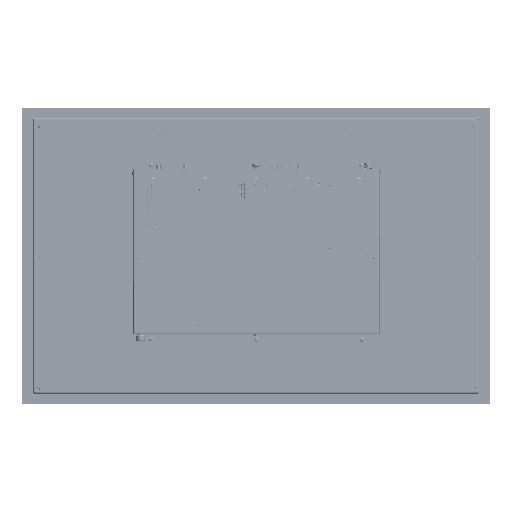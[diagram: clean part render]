
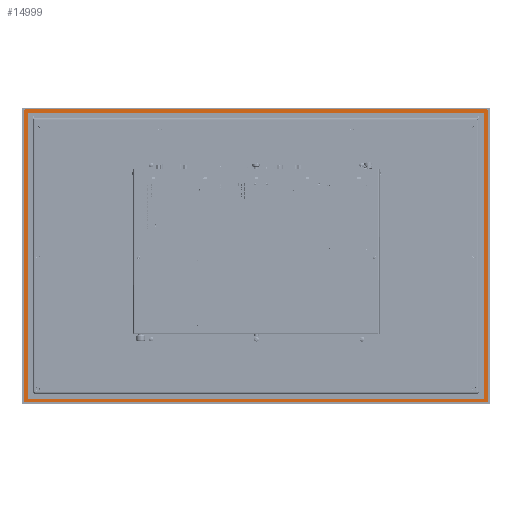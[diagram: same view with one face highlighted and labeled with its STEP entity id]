
A CAD part, front view. The second image highlights one B-rep face of the part: STEP entity #14999.
In plain terms, the highlighted planar face has unit normal (0, -1, 0).
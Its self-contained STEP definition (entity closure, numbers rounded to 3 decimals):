
#1661 = CARTESIAN_POINT ( 'NONE',  ( 286.25, 0., -182.25 ) ) ;
#6949 = LINE ( 'NONE', #718922, #711248 ) ;
#7481 = CARTESIAN_POINT ( 'NONE',  ( 286.25, 0., -180.5 ) ) ;
#10936 = AXIS2_PLACEMENT_3D ( 'NONE', #749580, #271257, #192895 ) ;
#11781 = EDGE_CURVE ( 'NONE', #850380, #648390, #453104, .T. ) ;
#14977 = VECTOR ( 'NONE', #573810, 1000. ) ;
#14999 = ADVANCED_FACE ( 'NONE', ( #380725, #261652 ), #216676, .F. ) ;
#17413 = EDGE_CURVE ( 'NONE', #131591, #850380, #542525, .T. ) ;
#20110 = CARTESIAN_POINT ( 'NONE',  ( 282.25, 0., 176.5 ) ) ;
#21724 = CARTESIAN_POINT ( 'NONE',  ( 283.5, 0., -176.5 ) ) ;
#23475 = VERTEX_POINT ( 'NONE', #207932 ) ;
#28603 = CIRCLE ( 'NONE', #658890, 1.75 ) ;
#36739 = LINE ( 'NONE', #785697, #14977 ) ;
#42325 = VERTEX_POINT ( 'NONE', #216575 ) ;
#45428 = ORIENTED_EDGE ( 'NONE', *, *, #868485, .F. ) ;
#45938 = CARTESIAN_POINT ( 'NONE',  ( 283.5, 0., 176.5 ) ) ;
#67307 = EDGE_CURVE ( 'NONE', #811707, #552546, #169708, .T. ) ;
#86664 = DIRECTION ( 'NONE',  ( 1., 0., 0. ) ) ;
#88775 = ORIENTED_EDGE ( 'NONE', *, *, #545434, .F. ) ;
#103154 = DIRECTION ( 'NONE',  ( 0., -1., 0. ) ) ;
#109710 = CARTESIAN_POINT ( 'NONE',  ( -282.25, 0., -176.5 ) ) ;
#116695 = AXIS2_PLACEMENT_3D ( 'NONE', #495167, #501124, #86664 ) ;
#127116 = EDGE_CURVE ( 'NONE', #646331, #23475, #130507, .T. ) ;
#130507 = LINE ( 'NONE', #851236, #639250 ) ;
#131591 = VERTEX_POINT ( 'NONE', #21724 ) ;
#134162 = CARTESIAN_POINT ( 'NONE',  ( -283.5, 0., 176.5 ) ) ;
#136411 = ORIENTED_EDGE ( 'NONE', *, *, #127116, .F. ) ;
#143947 = CARTESIAN_POINT ( 'NONE',  ( -282.25, 0., -177.75 ) ) ;
#154887 = CARTESIAN_POINT ( 'NONE',  ( 282.25, 0., 177.75 ) ) ;
#162033 = DIRECTION ( 'NONE',  ( 1., 0., 0. ) ) ;
#167563 = ORIENTED_EDGE ( 'NONE', *, *, #394637, .F. ) ;
#169708 = LINE ( 'NONE', #421321, #754132 ) ;
#172824 = AXIS2_PLACEMENT_3D ( 'NONE', #198001, #818677, #751836 ) ;
#182872 = EDGE_CURVE ( 'NONE', #222070, #42325, #488872, .T. ) ;
#185828 = DIRECTION ( 'NONE',  ( 0., -1., 0. ) ) ;
#192895 = DIRECTION ( 'NONE',  ( 0., 0., -1. ) ) ;
#198001 = CARTESIAN_POINT ( 'NONE',  ( -286.25, 0., 180.5 ) ) ;
#207102 = DIRECTION ( 'NONE',  ( 0., 1., 0. ) ) ;
#207932 = CARTESIAN_POINT ( 'NONE',  ( 286.25, 0., 182.25 ) ) ;
#216575 = CARTESIAN_POINT ( 'NONE',  ( -283.5, 0., -176.5 ) ) ;
#216676 = PLANE ( 'NONE',  #116695 ) ;
#217586 = ORIENTED_EDGE ( 'NONE', *, *, #885132, .F. ) ;
#222070 = VERTEX_POINT ( 'NONE', #134162 ) ;
#222883 = EDGE_LOOP ( 'NONE', ( #644734, #449027, #554043, #217586, #543784, #412034, #167563, #892956 ) ) ;
#226115 = CIRCLE ( 'NONE', #172824, 1.75 ) ;
#233957 = VECTOR ( 'NONE', #425259, 1000. ) ;
#246145 = EDGE_CURVE ( 'NONE', #371913, #222070, #811891, .T. ) ;
#257663 = DIRECTION ( 'NONE',  ( 0., -1., 0. ) ) ;
#261652 = FACE_OUTER_BOUND ( 'NONE', #420437, .T. ) ;
#265935 = CARTESIAN_POINT ( 'NONE',  ( -283.5, 0., 176.5 ) ) ;
#271257 = DIRECTION ( 'NONE',  ( 0., 1., 0. ) ) ;
#271359 = VERTEX_POINT ( 'NONE', #632183 ) ;
#279733 = CARTESIAN_POINT ( 'NONE',  ( 282.25, 0., 177.75 ) ) ;
#304156 = DIRECTION ( 'NONE',  ( 0., 0., -1. ) ) ;
#319719 = CIRCLE ( 'NONE', #623508, 1.75 ) ;
#336801 = DIRECTION ( 'NONE',  ( 0., 1., 0. ) ) ;
#336964 = ORIENTED_EDGE ( 'NONE', *, *, #680335, .F. ) ;
#371913 = VERTEX_POINT ( 'NONE', #869673 ) ;
#380654 = CARTESIAN_POINT ( 'NONE',  ( 282.25, 0., -177.75 ) ) ;
#380725 = FACE_BOUND ( 'NONE', #222883, .T. ) ;
#391658 = VECTOR ( 'NONE', #750103, 1000. ) ;
#394637 = EDGE_CURVE ( 'NONE', #685913, #131591, #552471, .T. ) ;
#396891 = VECTOR ( 'NONE', #706283, 1000. ) ;
#397528 = VERTEX_POINT ( 'NONE', #711763 ) ;
#400901 = ORIENTED_EDGE ( 'NONE', *, *, #434622, .F. ) ;
#412034 = ORIENTED_EDGE ( 'NONE', *, *, #17413, .F. ) ;
#420437 = EDGE_LOOP ( 'NONE', ( #481221, #400901, #336964, #45428, #136411, #516915, #806340, #88775 ) ) ;
#421321 = CARTESIAN_POINT ( 'NONE',  ( 286.25, 0., -182.25 ) ) ;
#425259 = DIRECTION ( 'NONE',  ( 1., 0., 0. ) ) ;
#434622 = EDGE_CURVE ( 'NONE', #836767, #811707, #28603, .T. ) ;
#435851 = CARTESIAN_POINT ( 'NONE',  ( 288., 0., -180.5 ) ) ;
#439141 = CARTESIAN_POINT ( 'NONE',  ( -282.25, 0., -177.75 ) ) ;
#445257 = AXIS2_PLACEMENT_3D ( 'NONE', #20110, #570863, #162033 ) ;
#449027 = ORIENTED_EDGE ( 'NONE', *, *, #182872, .F. ) ;
#453104 = CIRCLE ( 'NONE', #445257, 1.25 ) ;
#472076 = EDGE_CURVE ( 'NONE', #669169, #271359, #36739, .T. ) ;
#475648 = CIRCLE ( 'NONE', #10936, 1.75 ) ;
#481221 = ORIENTED_EDGE ( 'NONE', *, *, #67307, .F. ) ;
#488872 = LINE ( 'NONE', #265935, #391658 ) ;
#495167 = CARTESIAN_POINT ( 'NONE',  ( 0., 0., 0. ) ) ;
#496901 = DIRECTION ( 'NONE',  ( 1., 0., 0. ) ) ;
#499400 = CARTESIAN_POINT ( 'NONE',  ( -288., 0., -180.5 ) ) ;
#501124 = DIRECTION ( 'NONE',  ( 0., 1., 0. ) ) ;
#516915 = ORIENTED_EDGE ( 'NONE', *, *, #897594, .F. ) ;
#542525 = LINE ( 'NONE', #562915, #737713 ) ;
#543784 = ORIENTED_EDGE ( 'NONE', *, *, #11781, .F. ) ;
#545434 = EDGE_CURVE ( 'NONE', #552546, #669169, #475648, .T. ) ;
#552471 = CIRCLE ( 'NONE', #674377, 1.25 ) ;
#552546 = VERTEX_POINT ( 'NONE', #777517 ) ;
#554043 = ORIENTED_EDGE ( 'NONE', *, *, #246145, .F. ) ;
#562915 = CARTESIAN_POINT ( 'NONE',  ( 283.5, 0., -176.5 ) ) ;
#570863 = DIRECTION ( 'NONE',  ( 0., -1., 0. ) ) ;
#573810 = DIRECTION ( 'NONE',  ( 0., 0., 1. ) ) ;
#575211 = CIRCLE ( 'NONE', #847604, 1.25 ) ;
#597864 = CARTESIAN_POINT ( 'NONE',  ( -286.25, 0., 182.25 ) ) ;
#606496 = CARTESIAN_POINT ( 'NONE',  ( -282.25, 0., 176.5 ) ) ;
#623508 = AXIS2_PLACEMENT_3D ( 'NONE', #890791, #336801, #821325 ) ;
#632183 = CARTESIAN_POINT ( 'NONE',  ( -288., 0., 180.5 ) ) ;
#639250 = VECTOR ( 'NONE', #496901, 1000. ) ;
#644734 = ORIENTED_EDGE ( 'NONE', *, *, #875235, .F. ) ;
#646331 = VERTEX_POINT ( 'NONE', #597864 ) ;
#648390 = VERTEX_POINT ( 'NONE', #154887 ) ;
#658890 = AXIS2_PLACEMENT_3D ( 'NONE', #7481, #207102, #897411 ) ;
#661882 = DIRECTION ( 'NONE',  ( -1., 0., 0. ) ) ;
#663403 = DIRECTION ( 'NONE',  ( -1., 0., 0. ) ) ;
#669169 = VERTEX_POINT ( 'NONE', #499400 ) ;
#674377 = AXIS2_PLACEMENT_3D ( 'NONE', #796131, #103154, #865741 ) ;
#678310 = LINE ( 'NONE', #279733, #396891 ) ;
#680335 = EDGE_CURVE ( 'NONE', #397528, #836767, #6949, .T. ) ;
#685913 = VERTEX_POINT ( 'NONE', #380654 ) ;
#702097 = DIRECTION ( 'NONE',  ( 0., 0., 1. ) ) ;
#706283 = DIRECTION ( 'NONE',  ( -1., 0., 0. ) ) ;
#711248 = VECTOR ( 'NONE', #304156, 1000. ) ;
#711763 = CARTESIAN_POINT ( 'NONE',  ( 288., 0., 180.5 ) ) ;
#718922 = CARTESIAN_POINT ( 'NONE',  ( 288., 0., 180.5 ) ) ;
#723990 = AXIS2_PLACEMENT_3D ( 'NONE', #606496, #185828, #879001 ) ;
#737713 = VECTOR ( 'NONE', #702097, 1000. ) ;
#749580 = CARTESIAN_POINT ( 'NONE',  ( -286.25, 0., -180.5 ) ) ;
#750103 = DIRECTION ( 'NONE',  ( 0., 0., -1. ) ) ;
#751836 = DIRECTION ( 'NONE',  ( -1., 0., 0. ) ) ;
#754132 = VECTOR ( 'NONE', #661882, 1000. ) ;
#777517 = CARTESIAN_POINT ( 'NONE',  ( -286.25, 0., -182.25 ) ) ;
#785697 = CARTESIAN_POINT ( 'NONE',  ( -288., 0., -180.5 ) ) ;
#786427 = LINE ( 'NONE', #143947, #233957 ) ;
#796131 = CARTESIAN_POINT ( 'NONE',  ( 282.25, 0., -176.5 ) ) ;
#806340 = ORIENTED_EDGE ( 'NONE', *, *, #472076, .F. ) ;
#811707 = VERTEX_POINT ( 'NONE', #1661 ) ;
#811891 = CIRCLE ( 'NONE', #723990, 1.25 ) ;
#818677 = DIRECTION ( 'NONE',  ( 0., 1., 0. ) ) ;
#821325 = DIRECTION ( 'NONE',  ( 0., 0., 1. ) ) ;
#836767 = VERTEX_POINT ( 'NONE', #435851 ) ;
#840434 = EDGE_CURVE ( 'NONE', #853891, #685913, #786427, .T. ) ;
#847604 = AXIS2_PLACEMENT_3D ( 'NONE', #109710, #257663, #663403 ) ;
#850380 = VERTEX_POINT ( 'NONE', #45938 ) ;
#851236 = CARTESIAN_POINT ( 'NONE',  ( -286.25, 0., 182.25 ) ) ;
#853891 = VERTEX_POINT ( 'NONE', #439141 ) ;
#865741 = DIRECTION ( 'NONE',  ( 0., 0., -1. ) ) ;
#868485 = EDGE_CURVE ( 'NONE', #23475, #397528, #319719, .T. ) ;
#869673 = CARTESIAN_POINT ( 'NONE',  ( -282.25, 0., 177.75 ) ) ;
#875235 = EDGE_CURVE ( 'NONE', #42325, #853891, #575211, .T. ) ;
#879001 = DIRECTION ( 'NONE',  ( 0., 0., 1. ) ) ;
#885132 = EDGE_CURVE ( 'NONE', #648390, #371913, #678310, .T. ) ;
#890791 = CARTESIAN_POINT ( 'NONE',  ( 286.25, 0., 180.5 ) ) ;
#892956 = ORIENTED_EDGE ( 'NONE', *, *, #840434, .F. ) ;
#897411 = DIRECTION ( 'NONE',  ( 1., 0., 0. ) ) ;
#897594 = EDGE_CURVE ( 'NONE', #271359, #646331, #226115, .T. ) ;
